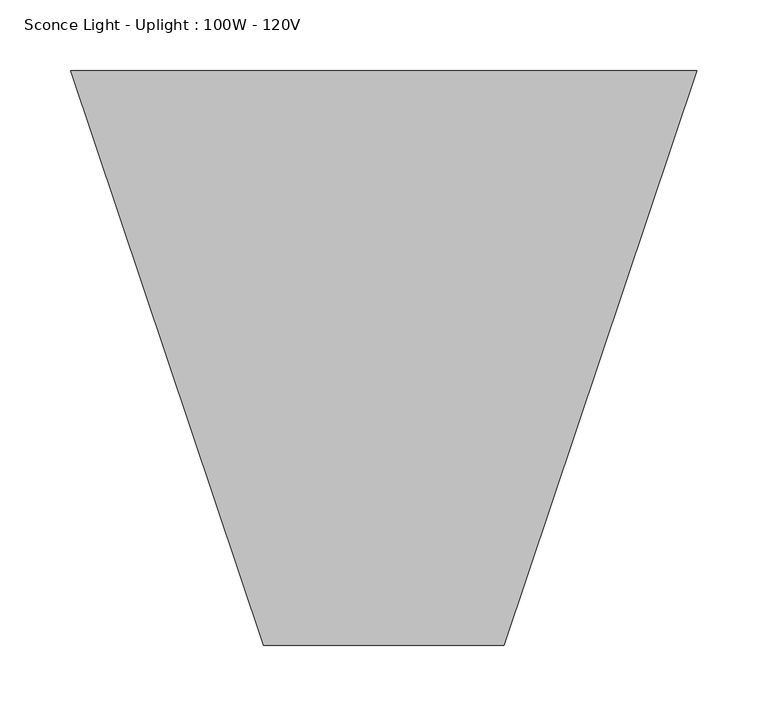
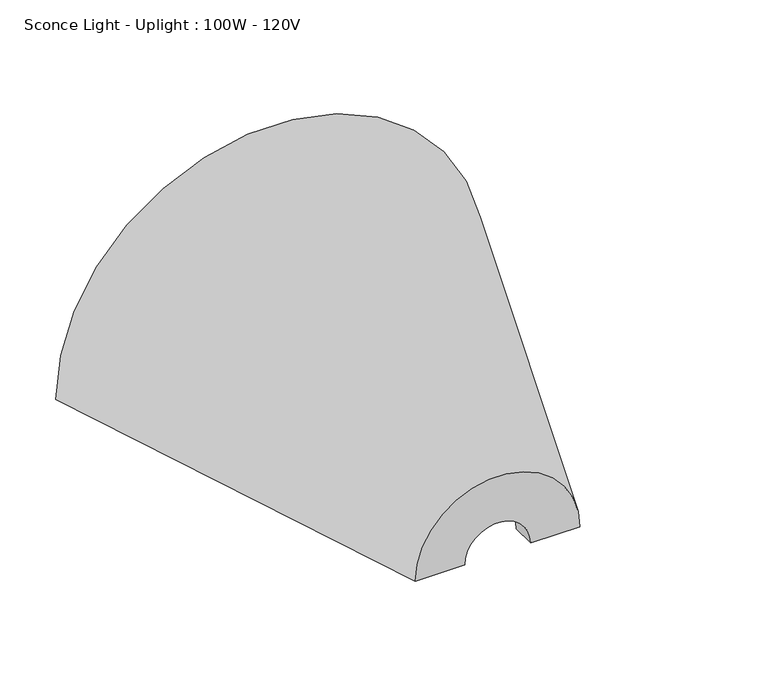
"""IFC4 building model written with IfcOpenShell, lengths in millimetres: light fixture geometry, Sconce Light - Uplight : 100W - 120V."""

from ifc_helpers import new_model, si_unit, frame, origin, place, context, project, spatial, polyline, circle_curve, source, transform, mapped, element, save
from ifc_brep_helpers import plane_surface, revolved_surface, advanced_brep


def sconce_light_uplight_100w_120v_70b3641e(model_context):
    return source(origin(), model_context, "Body", "AdvancedBrep", [
        advanced_brep(
        [(84.93125, -203.2, 0.0), (34.13125, -203.2, 0.0), (34.13125, -177.8, 0.0), (68.0640625, -177.8, 0.0), (196.05625, 203.2, 0.0), (221.45625, 203.2, 0.0), (-84.93125, -203.2, 0.0), (-221.45625, 203.2, 0.0), (-196.05625, 203.2, 0.0), (-68.0640625, -177.8, 0.0), (-34.13125, -177.8, 0.0), (-34.13125, -203.2, 0.0)],
        [
            (0, 1),
            (1, 2),
            (2, 3),
            (3, 4),
            (4, 5),
            (5, 0),
            (6, 7),
            (7, 8),
            (8, 9),
            (9, 10),
            (10, 11),
            (11, 6),
            (11, 1, circle_curve(frame((0.0, -203.2, 0.0), z_axis=(0.0, 1.0, 0.0), x_axis=(1.0, 0.0, 0.0)), 34.13125)),
            (0, 6, circle_curve(frame((0.0, -203.2, 0.0), z_axis=(0.0, -1.0, 0.0), x_axis=(1.0, 0.0, 0.0)), 84.93125)),
            (10, 2, circle_curve(frame((0.0, -177.8, 0.0), z_axis=(0.0, 1.0, 0.0), x_axis=(1.0, 0.0, 0.0)), 34.13125)),
            (9, 3, circle_curve(frame((0.0, -177.8, 0.0), z_axis=(0.0, 1.0, 0.0), x_axis=(1.0, 0.0, 0.0)), 68.0640625)),
            (8, 4, circle_curve(frame((0.0, 203.2, 0.0), z_axis=(0.0, 1.0, 0.0), x_axis=(1.0, 0.0, 0.0)), 196.05625)),
            (7, 5, circle_curve(frame((0.0, 203.2, 0.0), z_axis=(0.0, 1.0, 0.0), x_axis=(1.0, 0.0, 0.0)), 221.45625)),
        ],
        [
            plane_surface(frame((0.0, -247.4425894, 0.0), z_axis=(0.0, 0.0, -1.0), x_axis=(1.0, 0.0, 0.0))),
            plane_surface(frame((0.0, -247.4425894, 0.0), z_axis=(0.0, 0.0, -1.0), x_axis=(-1.0, 0.0, 0.0))),
            plane_surface(frame((0.0, -203.2, 0.0), z_axis=(0.0, -1.0, 0.0), x_axis=(1.0, 0.0, 0.0))),
            revolved_surface(polyline([(34.13125, -203.2, 0.0), (34.13125, -177.8, 0.0)]), (0.0, -247.4425894, 0.0), (0.0, -1.0, 0.0)),
            plane_surface(frame((0.0, -177.8, 0.0), z_axis=(0.0, 1.0, 0.0), x_axis=(1.0, 0.0, 0.0))),
            revolved_surface(polyline([(68.0640625, -177.8, 0.0), (196.05625, 203.2, 0.0)]), (0.0, -247.4425894, 0.0), (0.0, -1.0, 0.0)),
            plane_surface(frame((0.0, 203.2, 0.0), z_axis=(0.0, 1.0, 0.0), x_axis=(1.0, 0.0, 0.0))),
            revolved_surface(polyline([(221.45625, 203.2, 0.0), (84.93125, -203.2, 0.0)]), (0.0, -247.4425894, 0.0), (0.0, -1.0, 0.0)),
        ],
        [
            (0, [[1, 2, 3, 4, 5, 6]]),
            (1, [[7, 8, 9, 10, 11, 12]]),
            (2, [[13, -1, 14, -12]]),
            (3, [[15, -2, -13, -11]]),
            (4, [[16, -3, -15, -10]]),
            (5, [[17, -4, -16, -9]]),
            (6, [[18, -5, -17, -8]]),
            (7, [[-14, -6, -18, -7]]),
        ],
    ),
    ])


if __name__ == "__main__":
    model = new_model("IFC4")
    model_context = context("Model", 3, world=origin())
    ifc_project = project(units=[si_unit("LENGTHUNIT", "METRE", prefix="MILLI")], contexts=[model_context])
    site = spatial("IfcSite", under=ifc_project)
    building = spatial("IfcBuilding", under=site)
    placement = place(None, origin())
    sconce_light_uplight_100w_120v_shape = sconce_light_uplight_100w_120v_70b3641e(model_context)
    element("IfcLightFixture", 1, ObjectType="Sconce Light - Uplight : 100W - 120V", at=placement, inside=building, context=model_context, shape_type="MappedRepresentation", body=[
        mapped(sconce_light_uplight_100w_120v_shape, transform((0.0, 0.0, 0.0), x_axis=(1.0, 0.0, 0.0), y_axis=(0.0, 1.0, 0.0), z_axis=(0.0, 0.0, 1.0))),
    ])
    save(model, "model.ifc")
